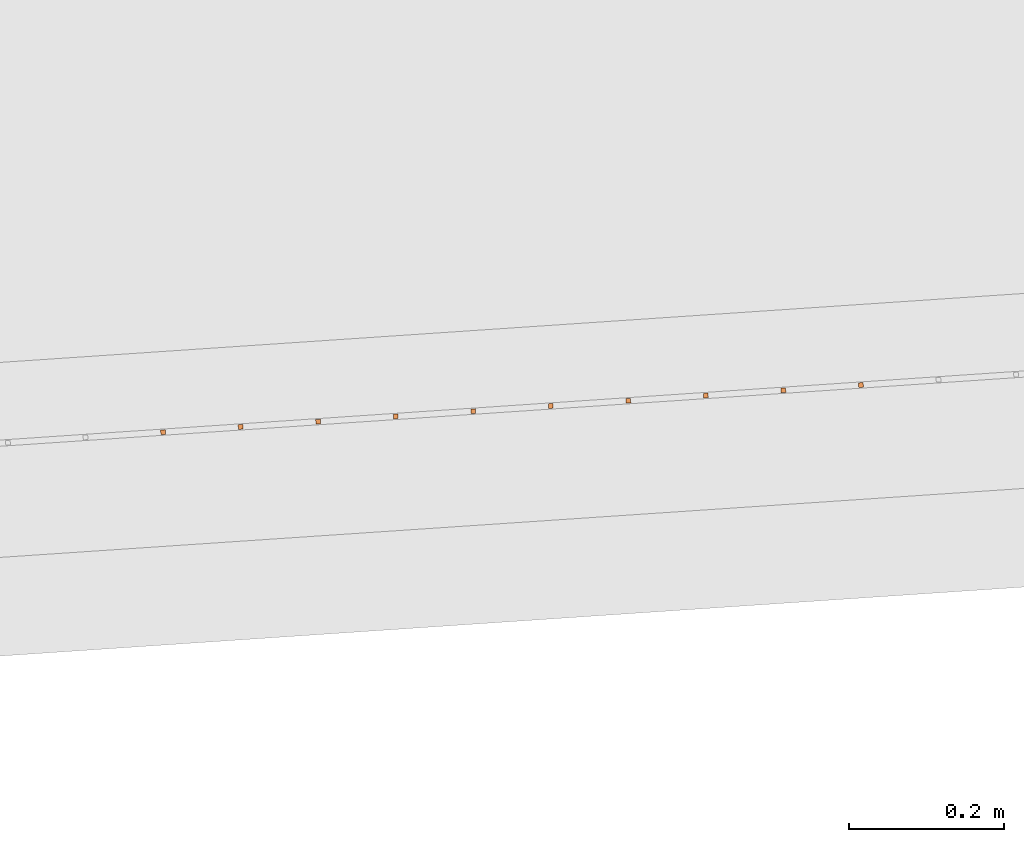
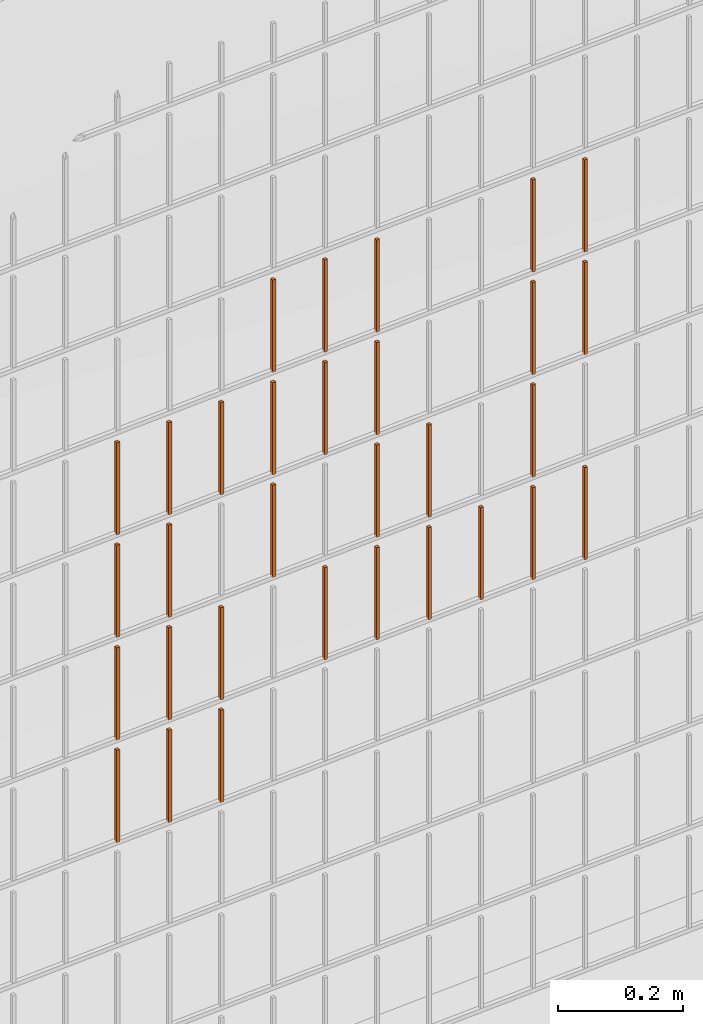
# One storey, part 370 of 1809: 31 proxies, 1 element without a shape of its own.
"""IFC2X3 building model written with IfcOpenShell, lengths in millimetres."""

import ifcopenshell
import ifcopenshell.guid

model = None  # the IFC model being written
_history = None  # IfcOwnerHistory: only IFC2X3 demands one
_inside = {}  # id of a spatial element -> (the spatial element, [elements in it])
_under = {}  # id of a project, library or spatial element -> (it, [spatial elements below it])
_declared = {}  # id of a project -> (the project, [libraries it declares])
_typed = {}  # id of a type object -> (the type object, [elements of that type])
_made_of = {}  # id of a material, layer set ... -> (it, [elements and type objects made of it])


def new_model(schema):
    """Start an empty IFC model of exactly this schema.

    Asked for "IFC4X3", IfcOpenShell would pick the latest addendum, in which some entities
    have other attributes; the version numbers below select the first issue.
    IFC2X3 requires an IfcOwnerHistory on every rooted entity: one is made here for all.
    """
    global model, _history
    if schema == "IFC4X3":
        model = ifcopenshell.file(schema_version=(4, 3, 0, 0))
    else:
        model = ifcopenshell.file(schema=schema)
    _inside.clear()
    _under.clear()
    _declared.clear()
    _typed.clear()
    _made_of.clear()
    _history = None
    if model.schema == "IFC2X3":
        org = make("IfcOrganization", Name="unknown")
        user = make(
            "IfcPersonAndOrganization",
            ThePerson=make("IfcPerson", FamilyName="unknown"),
            TheOrganization=org,
        )
        app = make(
            "IfcApplication",
            ApplicationDeveloper=org,
            Version="unknown",
            ApplicationFullName="unknown",
            ApplicationIdentifier="unknown",
        )
        _history = make(
            "IfcOwnerHistory",
            OwningUser=user,
            OwningApplication=app,
            ChangeAction="ADDED",
            CreationDate=0,
        )
    return model


def make(cls, **values):
    """One entity of the class cls with the attributes given. An attribute that is None is left unset."""
    return model.create_entity(
        cls, **{name: value for name, value in values.items() if value is not None}
    )


def entity(cls, *values):
    """Any entity or typed value of the class cls, its attributes in the order of the schema. None: left unset."""
    e = model.create_entity(cls)
    for i, value in enumerate(values):
        if value is not None:
            e[i] = value
    return e


def rooted(cls, **values):
    """An entity with a GlobalId (a new one), such as an element, a storey or a relation."""
    return make(cls, GlobalId=ifcopenshell.guid.new(), OwnerHistory=_history, **values)


def si_unit(unit_type, name, prefix=None):
    """IfcSIUnit, for example si_unit("LENGTHUNIT", "METRE", prefix="MILLI")."""
    return make("IfcSIUnit", UnitType=unit_type, Prefix=prefix, Name=name)


def converted_unit(unit_type, name, factor, base, dimensions=None, offset=None):
    """IfcConversionBasedUnit, such as the inch: factor (a typed value) times the base unit."""
    return make(
        "IfcConversionBasedUnit"
        if offset is None
        else "IfcConversionBasedUnitWithOffset",
        ConversionOffset=offset,
        Dimensions=None
        if dimensions is None
        else entity("IfcDimensionalExponents", *dimensions),
        UnitType=unit_type,
        Name=name,
        ConversionFactor=make(
            "IfcMeasureWithUnit", ValueComponent=factor, UnitComponent=base
        ),
    )


def derived_unit(unit_type, elements):
    """IfcDerivedUnit: a product of units, each with its exponent."""
    return make(
        "IfcDerivedUnit",
        Elements=[
            make("IfcDerivedUnitElement", Unit=unit, Exponent=power)
            for unit, power in elements
        ],
        UnitType=unit_type,
    )


def money_unit(currency):
    """IfcMonetaryUnit."""
    return make("IfcMonetaryUnit", Currency=currency)


def assignment(units):
    """IfcUnitAssignment: the units of a project."""
    return None if units is None else make("IfcUnitAssignment", Units=units)


def point(xyz):
    """IfcCartesianPoint."""
    return None if xyz is None else make("IfcCartesianPoint", Coordinates=xyz)


def direction(xyz):
    """IfcDirection."""
    return None if xyz is None else make("IfcDirection", DirectionRatios=xyz)


def frame(location, z_axis=None, x_axis=None):
    """IfcAxis2Placement3D, a coordinate frame: its origin and axes. An axis left out is left unset."""
    return make(
        "IfcAxis2Placement3D",
        Location=point(location),
        Axis=direction(z_axis),
        RefDirection=direction(x_axis),
    )


def origin_with_axes():
    """The frame at (0, 0, 0) with the z axis (0, 0, 1) and the x axis (1, 0, 0) written out."""
    return frame((0.0, 0.0, 0.0), z_axis=(0.0, 0.0, 1.0), x_axis=(1.0, 0.0, 0.0))


def place(relative_to, where):
    """IfcLocalPlacement: puts the frame where relative to a parent placement (None: the world)."""
    return make(
        "IfcLocalPlacement", PlacementRelTo=relative_to, RelativePlacement=where
    )


def context(
    kind, dimensions, precision=None, world=None, true_north=None, identifier=None
):
    """IfcGeometricRepresentationContext, for example the 3D "Model" context."""
    return make(
        "IfcGeometricRepresentationContext",
        ContextIdentifier=identifier,
        ContextType=kind,
        CoordinateSpaceDimension=dimensions,
        Precision=precision,
        WorldCoordinateSystem=world,
        TrueNorth=true_north,
    )


def subcontext(parent, identifier, kind, view, scale=None):
    """IfcGeometricRepresentationSubContext, for example "Body" below "Model"."""
    return make(
        "IfcGeometricRepresentationSubContext",
        ContextIdentifier=identifier,
        ContextType=kind,
        ParentContext=parent,
        TargetScale=scale,
        TargetView=view,
    )


def project(units=None, contexts=None):
    """IfcProject with its units and contexts."""
    return rooted(
        "IfcProject",
        Name="project",
        RepresentationContexts=contexts,
        UnitsInContext=assignment(units),
    )


def spatial(cls, under=None, at=None, **own):
    """A site, building, storey or space (cls), placed at a placement, below another one or the project."""
    s = rooted(cls, ObjectPlacement=at, **own)
    if under is not None:
        _under.setdefault(under.id(), (under, []))[1].append(s)
    return s


def faces_of(points, faces, orient=None, outer=None):
    """IfcFace entities. A face is a list of loops; a loop is a list of indices into points, from 0.

    orient and outer hold one flag for each loop. By default every Orientation is true, the
    first loop of a face is its IfcFaceOuterBound and the others are IfcFaceBound.
    """
    made = []
    for i, loops in enumerate(faces):
        bounds = []
        for j, loop in enumerate(loops):
            is_outer = j == 0 if outer is None else outer[i][j]
            bounds.append(
                make(
                    "IfcFaceOuterBound" if is_outer else "IfcFaceBound",
                    Bound=make("IfcPolyLoop", Polygon=[points[k] for k in loop]),
                    Orientation=True if orient is None else orient[i][j],
                )
            )
        made.append(make("IfcFace", Bounds=bounds))
    return made


def faceted_brep(points, faces, orient=None, outer=None, voids=None):
    """IfcFacetedBrep: a solid bounded by flat faces; with voids (closed shells), ...WithVoids."""
    shared = [point(p) for p in points]
    hull = make("IfcClosedShell", CfsFaces=faces_of(shared, faces, orient, outer))
    if voids is None:
        return make("IfcFacetedBrep", Outer=hull)
    return make(
        "IfcFacetedBrepWithVoids",
        Outer=hull,
        Voids=[
            make(cls, CfsFaces=faces_of(shared, fs, o, b)) for cls, fs, o, b in voids
        ],
    )


def shape(context_of_items, identifier, shape_type, items):
    """IfcShapeRepresentation: the items that make up one representation, for example the "Body"."""
    return make(
        "IfcShapeRepresentation",
        ContextOfItems=context_of_items,
        RepresentationIdentifier=identifier,
        RepresentationType=shape_type,
        Items=items,
    )


def source(mapping_origin, context_of_items, identifier, shape_type, items):
    """IfcRepresentationMap: a shape defined once, which mapped items show again and again."""
    return make(
        "IfcRepresentationMap",
        MappingOrigin=mapping_origin,
        MappedRepresentation=shape(context_of_items, identifier, shape_type, items),
    )


def transform(
    local_origin,
    x_axis=None,
    y_axis=None,
    z_axis=None,
    scale=None,
    scale2=None,
    scale3=None,
    uniform=True,
):
    """IfcCartesianTransformationOperator3D, or its non-uniform kind. x_axis, y_axis, z_axis: its Axis1, 2, 3."""
    if uniform:
        return make(
            "IfcCartesianTransformationOperator3D",
            Axis1=direction(x_axis),
            Axis2=direction(y_axis),
            LocalOrigin=point(local_origin),
            Scale=scale,
            Axis3=direction(z_axis),
        )
    return make(
        "IfcCartesianTransformationOperator3DnonUniform",
        Axis1=direction(x_axis),
        Axis2=direction(y_axis),
        LocalOrigin=point(local_origin),
        Scale=scale,
        Axis3=direction(z_axis),
        Scale2=scale2,
        Scale3=scale3,
    )


def mapped(mapping_source, mapping_target):
    """IfcMappedItem: shows the shape of a source again, moved by a transform."""
    return make(
        "IfcMappedItem", MappingSource=mapping_source, MappingTarget=mapping_target
    )


def material(Name=None, Category=None):
    """IfcMaterial."""
    return make("IfcMaterial", Name=Name, Category=Category)


def made_of(thing, what):
    """Note that an element or type object is made of a material, layer set ...; save() writes the relation."""
    if what is not None:
        _made_of.setdefault(what.id(), (what, []))[1].append(thing)
    return thing


def type_object(cls, material=None, **own):
    """A type object (cls), such as IfcWallType, which elements share."""
    return made_of(rooted(cls, **own), material)


def element(
    cls,
    number,
    at=None,
    inside=None,
    cuts=None,
    type_object=None,
    material=None,
    context=None,
    identifier="Body",
    shape_type=None,
    held_by="IfcProductDefinitionShape",
    body=None,
    shapes=None,
    **own,
):
    """One element of the class cls, such as IfcWall. Its Tag is "e" and its number.

    at: its placement. inside: the storey or other place that contains it. cuts: it is an
    opening in that element (IfcRelVoidsElement). A single representation is given by context,
    identifier, shape_type and body (its items); several are given by shapes. held_by: the class
    of the entity that holds the representations. save() writes the other relations.
    """
    e = rooted(cls, Tag="e%d" % number, ObjectPlacement=at, **own)
    if body is not None:
        shapes = [shape(context, identifier, shape_type, body)]
    if shapes is not None:
        e.Representation = make(held_by, Representations=shapes)
    if inside is not None:
        _inside.setdefault(inside.id(), (inside, []))[1].append(e)
    if cuts is not None:
        rooted(
            "IfcRelVoidsElement", RelatingBuildingElement=cuts, RelatedOpeningElement=e
        )
    if type_object is not None:
        _typed.setdefault(type_object.id(), (type_object, []))[1].append(e)
    return made_of(e, material)


def aggregate(whole, parts):
    """IfcRelAggregates: a whole, such as a stair, and the parts it consists of."""
    return rooted("IfcRelAggregates", RelatingObject=whole, RelatedObjects=parts)


def save(model, path):
    """Write the relations noted so far, then the file.

    IfcRelAggregates (storeys below a building ...), IfcRelContainedInSpatialStructure (elements
    in a storey), IfcRelDefinesByType, IfcRelAssociatesMaterial and IfcRelDeclares: one each for
    every whole, place, type object, material and project.
    """
    for whole, parts in _under.values():
        aggregate(whole, parts)
    for where, things in _inside.values():
        rooted(
            "IfcRelContainedInSpatialStructure",
            RelatedElements=things,
            RelatingStructure=where,
        )
    for kind, things in _typed.values():
        rooted("IfcRelDefinesByType", RelatedObjects=things, RelatingType=kind)
    for what, things in _made_of.values():
        rooted("IfcRelAssociatesMaterial", RelatedObjects=things, RelatingMaterial=what)
    for by, libraries in _declared.values():
        rooted("IfcRelDeclares", RelatingContext=by, RelatedDefinitions=libraries)
    model.write(path)


model = new_model("IFC2X3")

# Units and contexts
model_context = context("Model", 3, precision=0.01, world=origin_with_axes(), true_north=direction((0.0, 1.0)))
body_context = subcontext(model_context, "Body", "Model", "MODEL_VIEW")
ifc_project = project(units=[si_unit("LENGTHUNIT", "METRE", prefix="MILLI"), si_unit("AREAUNIT", "SQUARE_METRE"), si_unit("VOLUMEUNIT", "CUBIC_METRE"), converted_unit("PLANEANGLEUNIT", "DEGREE", entity("IfcPlaneAngleMeasure", 0.0174532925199), si_unit("PLANEANGLEUNIT", "RADIAN"), dimensions=[0, 0, 0, 0, 0, 0, 0]), si_unit("SOLIDANGLEUNIT", "STERADIAN"), money_unit("EUR"), converted_unit("TIMEUNIT", "Year", entity("IfcTimeMeasure", 31556926.0), si_unit("TIMEUNIT", "SECOND"), dimensions=[0, 0, 1, 0, 0, 0, 0]), si_unit("MASSUNIT", "GRAM", prefix="KILO"), si_unit("THERMODYNAMICTEMPERATUREUNIT", "DEGREE_CELSIUS"), si_unit("LUMINOUSINTENSITYUNIT", "LUMEN"), si_unit("ENERGYUNIT", "JOULE", prefix="MEGA"), derived_unit("THERMALCONDUCTANCEUNIT", [(si_unit("POWERUNIT", "WATT"), 1), (si_unit("LENGTHUNIT", "METRE"), -1), (si_unit("THERMODYNAMICTEMPERATUREUNIT", "KELVIN"), -1)]), derived_unit("SPECIFICHEATCAPACITYUNIT", [(si_unit("ENERGYUNIT", "JOULE"), 1), (si_unit("MASSUNIT", "GRAM", prefix="KILO"), -1), (si_unit("THERMODYNAMICTEMPERATUREUNIT", "KELVIN"), -1)]), derived_unit("MASSDENSITYUNIT", [(si_unit("MASSUNIT", "GRAM", prefix="KILO"), 1), (si_unit("VOLUMEUNIT", "CUBIC_METRE"), -1)])], contexts=[model_context])

# Site, building, storey
site_placement = place(None, origin_with_axes())
site = spatial("IfcSite", under=ifc_project, at=site_placement, Name="Politse- ja Piirivalveameti ning Päästeameti ühishoone", CompositionType="ELEMENT")
building_placement = place(site_placement, origin_with_axes())
building = spatial("IfcBuilding", under=site, at=building_placement, Name="Politse- ja Piirivalveameti ning Päästeameti ühishoone", CompositionType="ELEMENT")
storey_placement = place(building_placement, origin_with_axes())
storey = spatial("IfcBuildingStorey", under=building, at=storey_placement, Name="Esimene korrus", CompositionType="ELEMENT", Elevation=0.0)

# Proxies
building_element_proxy_type_1 = type_object("IfcBuildingElementProxyType", Name="Railing Type", PredefinedType="NOTDEFINED")
proxy_1_placement = place(storey_placement, frame((89252.001212, -29183.4766571, 203.661247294), z_axis=(0.0, 0.0, 1.0), x_axis=(1.0, 0.0, 0.0)))
proxy_1 = element("IfcBuildingElementProxy", 1, at=proxy_1_placement, inside=storey, type_object=building_element_proxy_type_1, Name="PIIRDEAED")
ifc_material = material(Name="ET-03_Raud")
building_element_proxy_type_2 = type_object("IfcBuildingElementProxyType", Name="IfcBuildingElementProxy", PredefinedType="NOTDEFINED")
shared_shape_1 = source(origin_with_axes(), body_context, "Body", "Brep", [
    faceted_brep([(3.0, 3.0, -0.000752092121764), (-3.0, 3.0, -0.000752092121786), (-3.0, 3.0, 179.99926046), (3.0, 3.0, 179.99926046), (3.0, -3.0, 0.000752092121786), (-3.0, -3.0, 0.000752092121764), (-3.0, -3.0, 180.000764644), (3.0, -3.0, 180.000764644)], [[[0, 1, 2, 3]], [[0, 4, 5, 1]], [[1, 5, 6, 2]], [[3, 2, 6, 7]], [[4, 0, 3, 7]], [[5, 4, 7, 6]]]),
])
proxy_2_placement = place(proxy_1_placement, frame((-20879.1117771, -18708.0799672, 621.988119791), z_axis=(0.0, 0.0, 1.0), x_axis=(1.0, 0.0, 0.0)))
proxy_2 = element("IfcBuildingElementProxy", 2, at=proxy_2_placement, type_object=building_element_proxy_type_2, material=ifc_material, Name="BALUSTER - 001", context=body_context, shape_type="MappedRepresentation", body=[
    mapped(shared_shape_1, transform((0.0, 0.0, 0.0), x_axis=(-0.0673926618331, 0.997726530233, 0.0), y_axis=(-0.997726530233, -0.0673926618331, 0.0), z_axis=(0.0, 0.0, 1.0))),
])
shared_shape_2 = source(origin_with_axes(), body_context, "Body", "Brep", [
    faceted_brep([(3.0, 3.0, -0.000752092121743), (-3.0, 3.0, -0.000752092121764), (-3.0, 3.0, 179.99926046), (3.0, 3.0, 179.99926046), (3.0, -3.0, 0.000752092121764), (-3.0, -3.0, 0.000752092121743), (-3.0, -3.0, 180.000764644), (3.0, -3.0, 180.000764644)], [[[0, 1, 2, 3]], [[0, 4, 5, 1]], [[1, 5, 6, 2]], [[3, 2, 6, 7]], [[4, 0, 3, 7]], [[5, 4, 7, 6]]]),
])
proxy_3_placement = place(proxy_1_placement, frame((-20380.2485119, -18674.3836363, 822.113468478), z_axis=(0.0, 0.0, 1.0), x_axis=(1.0, 0.0, 0.0)))
proxy_3 = element("IfcBuildingElementProxy", 3, at=proxy_3_placement, type_object=building_element_proxy_type_2, material=ifc_material, Name="BALUSTER - 001", context=body_context, shape_type="MappedRepresentation", body=[
    mapped(shared_shape_2, transform((0.0, 0.0, 0.0), x_axis=(-0.0673926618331, 0.997726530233, 0.0), y_axis=(-0.997726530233, -0.0673926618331, 0.0), z_axis=(0.0, 0.0, 1.0))),
])
shared_shape_3 = source(origin_with_axes(), body_context, "Body", "Brep", [
    faceted_brep([(3.0, 3.0, -0.000752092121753), (-3.0, 3.0, -0.000752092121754), (-3.0, 3.0, 179.99926046), (3.0, 3.0, 179.99926046), (3.0, -3.0, 0.000752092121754), (-3.0, -3.0, 0.000752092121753), (-3.0, -3.0, 180.000764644), (3.0, -3.0, 180.000764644)], [[[0, 1, 2, 3]], [[0, 4, 5, 1]], [[1, 5, 6, 2]], [[3, 2, 6, 7]], [[4, 0, 3, 7]], [[5, 4, 7, 6]]]),
])
proxy_4_placement = place(proxy_1_placement, frame((-20180.7032059, -18660.9051039, 822.163607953), z_axis=(0.0, 0.0, 1.0), x_axis=(1.0, 0.0, 0.0)))
proxy_4 = element("IfcBuildingElementProxy", 4, at=proxy_4_placement, type_object=building_element_proxy_type_2, material=ifc_material, Name="BALUSTER - 001", context=body_context, shape_type="MappedRepresentation", body=[
    mapped(shared_shape_3, transform((0.0, 0.0, 0.0), x_axis=(-0.0673926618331, 0.997726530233, 0.0), y_axis=(-0.997726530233, -0.0673926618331, 0.0), z_axis=(0.0, 0.0, 1.0))),
])
shared_shape_4 = source(origin_with_axes(), body_context, "Body", "Brep", [
    faceted_brep([(3.0, 3.0, -0.000752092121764), (-3.0, 3.0, -0.000752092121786), (-3.0, 3.0, 179.99926046), (3.0, 3.0, 179.99926046), (3.0, -3.0, 0.000752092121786), (-3.0, -3.0, 0.000752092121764), (-3.0, -3.0, 180.000764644), (3.0, -3.0, 180.000764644)], [[[0, 1, 2, 3]], [[0, 4, 5, 1]], [[1, 5, 6, 2]], [[3, 2, 6, 7]], [[4, 0, 3, 7]], [[5, 4, 7, 6]]]),
])
proxy_5_placement = place(proxy_1_placement, frame((-20978.8844301, -18714.8192334, 621.963050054), z_axis=(0.0, 0.0, 1.0), x_axis=(1.0, 0.0, 0.0)))
proxy_5 = element("IfcBuildingElementProxy", 5, at=proxy_5_placement, type_object=building_element_proxy_type_2, material=ifc_material, Name="BALUSTER - 001", context=body_context, shape_type="MappedRepresentation", body=[
    mapped(shared_shape_4, transform((0.0, 0.0, 0.0), x_axis=(-0.0673926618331, 0.997726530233, 0.0), y_axis=(-0.997726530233, -0.0673926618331, 0.0), z_axis=(0.0, 0.0, 1.0))),
])
shared_shape_5 = source(origin_with_axes(), body_context, "Body", "Brep", [
    faceted_brep([(3.0, 3.0, -0.000752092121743), (-3.0, 3.0, -0.000752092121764), (-3.0, 3.0, 179.99926046), (3.0, 3.0, 179.99926046), (3.0, -3.0, 0.000752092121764), (-3.0, -3.0, 0.000752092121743), (-3.0, -3.0, 180.000764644), (3.0, -3.0, 180.000764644)], [[[0, 1, 2, 3]], [[0, 4, 5, 1]], [[1, 5, 6, 2]], [[3, 2, 6, 7]], [[4, 0, 3, 7]], [[5, 4, 7, 6]]]),
])
proxy_6_placement = place(proxy_1_placement, frame((-20480.021165, -18681.1229025, 822.088398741), z_axis=(0.0, 0.0, 1.0), x_axis=(1.0, 0.0, 0.0)))
proxy_6 = element("IfcBuildingElementProxy", 6, at=proxy_6_placement, type_object=building_element_proxy_type_2, material=ifc_material, Name="BALUSTER - 001", context=body_context, shape_type="MappedRepresentation", body=[
    mapped(shared_shape_5, transform((0.0, 0.0, 0.0), x_axis=(-0.0673926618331, 0.997726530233, 0.0), y_axis=(-0.997726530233, -0.0673926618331, 0.0), z_axis=(0.0, 0.0, 1.0))),
])
shared_shape_6 = source(origin_with_axes(), body_context, "Body", "Brep", [
    faceted_brep([(3.0, 3.0, -0.000752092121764), (-3.0, 3.0, -0.000752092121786), (-3.0, 3.0, 179.99926046), (3.0, 3.0, 179.99926046), (3.0, -3.0, 0.000752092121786), (-3.0, -3.0, 0.000752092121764), (-3.0, -3.0, 180.000764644), (3.0, -3.0, 180.000764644)], [[[0, 1, 2, 3]], [[0, 4, 5, 1]], [[1, 5, 6, 2]], [[3, 2, 6, 7]], [[4, 0, 3, 7]], [[5, 4, 7, 6]]]),
])
proxy_7_placement = place(proxy_1_placement, frame((-21078.6570831, -18721.5584996, 821.937980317), z_axis=(0.0, 0.0, 1.0), x_axis=(1.0, 0.0, 0.0)))
proxy_7 = element("IfcBuildingElementProxy", 7, at=proxy_7_placement, type_object=building_element_proxy_type_2, material=ifc_material, Name="BALUSTER - 001", context=body_context, shape_type="MappedRepresentation", body=[
    mapped(shared_shape_6, transform((0.0, 0.0, 0.0), x_axis=(-0.0673926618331, 0.997726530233, 0.0), y_axis=(-0.997726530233, -0.0673926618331, 0.0), z_axis=(0.0, 0.0, 1.0))),
])
proxy_8_placement = place(proxy_1_placement, frame((-21078.6570831, -18721.5584996, 1221.93798032), z_axis=(0.0, 0.0, 1.0), x_axis=(1.0, 0.0, 0.0)))
proxy_8 = element("IfcBuildingElementProxy", 8, at=proxy_8_placement, type_object=building_element_proxy_type_2, material=ifc_material, Name="BALUSTER - 001", context=body_context, shape_type="MappedRepresentation", body=[
    mapped(shared_shape_6, transform((0.0, 0.0, 0.0), x_axis=(-0.0673926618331, 0.997726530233, 0.0), y_axis=(-0.997726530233, -0.0673926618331, 0.0), z_axis=(0.0, 0.0, 1.0))),
])
shared_shape_7 = source(origin_with_axes(), body_context, "Body", "Brep", [
    faceted_brep([(3.0, 3.0, -0.000752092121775), (-3.0, 3.0, -0.000752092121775), (-3.0, 3.0, 179.99926046), (3.0, 3.0, 179.99926046), (3.0, -3.0, 0.000752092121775), (-3.0, -3.0, 0.000752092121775), (-3.0, -3.0, 180.000764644), (3.0, -3.0, 180.000764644)], [[[0, 1, 2, 3]], [[0, 4, 5, 1]], [[1, 5, 6, 2]], [[3, 2, 6, 7]], [[4, 0, 3, 7]], [[5, 4, 7, 6]]]),
])
proxy_9_placement = place(proxy_1_placement, frame((-20879.1117771, -18708.0799672, 1221.98811979), z_axis=(0.0, 0.0, 1.0), x_axis=(1.0, 0.0, 0.0)))
proxy_9 = element("IfcBuildingElementProxy", 9, at=proxy_9_placement, type_object=building_element_proxy_type_2, material=ifc_material, Name="BALUSTER - 001", context=body_context, shape_type="MappedRepresentation", body=[
    mapped(shared_shape_7, transform((0.0, 0.0, 0.0), x_axis=(-0.0673926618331, 0.997726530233, 0.0), y_axis=(-0.997726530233, -0.0673926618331, 0.0), z_axis=(0.0, 0.0, 1.0))),
])
shared_shape_8 = source(origin_with_axes(), body_context, "Body", "Brep", [
    faceted_brep([(3.0, 3.0, -0.000752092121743), (-3.0, 3.0, -0.000752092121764), (-3.0, 3.0, 179.99926046), (3.0, 3.0, 179.99926046), (3.0, -3.0, 0.000752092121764), (-3.0, -3.0, 0.000752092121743), (-3.0, -3.0, 180.000764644), (3.0, -3.0, 180.000764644)], [[[0, 1, 2, 3]], [[0, 4, 5, 1]], [[1, 5, 6, 2]], [[3, 2, 6, 7]], [[4, 0, 3, 7]], [[5, 4, 7, 6]]]),
])
proxy_10_placement = place(proxy_1_placement, frame((-20280.4758589, -18667.6443701, 822.138538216), z_axis=(0.0, 0.0, 1.0), x_axis=(1.0, 0.0, 0.0)))
proxy_10 = element("IfcBuildingElementProxy", 10, at=proxy_10_placement, type_object=building_element_proxy_type_2, material=ifc_material, Name="BALUSTER - 001", context=body_context, shape_type="MappedRepresentation", body=[
    mapped(shared_shape_8, transform((0.0, 0.0, 0.0), x_axis=(-0.0673926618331, 0.997726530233, 0.0), y_axis=(-0.997726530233, -0.0673926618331, 0.0), z_axis=(0.0, 0.0, 1.0))),
])
proxy_11_placement = place(proxy_1_placement, frame((-20180.7032059, -18660.9051039, 1222.16360795), z_axis=(0.0, 0.0, 1.0), x_axis=(1.0, 0.0, 0.0)))
proxy_11 = element("IfcBuildingElementProxy", 11, at=proxy_11_placement, type_object=building_element_proxy_type_2, material=ifc_material, Name="BALUSTER - 001", context=body_context, shape_type="MappedRepresentation", body=[
    mapped(shared_shape_8, transform((0.0, 0.0, 0.0), x_axis=(-0.0673926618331, 0.997726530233, 0.0), y_axis=(-0.997726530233, -0.0673926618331, 0.0), z_axis=(0.0, 0.0, 1.0))),
])
shared_shape_9 = source(origin_with_axes(), body_context, "Body", "Brep", [
    faceted_brep([(3.0, 3.0, -0.000752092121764), (-3.0, 3.0, -0.000752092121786), (-3.0, 3.0, 179.99926046), (3.0, 3.0, 179.99926046), (3.0, -3.0, 0.000752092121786), (-3.0, -3.0, 0.000752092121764), (-3.0, -3.0, 180.000764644), (3.0, -3.0, 180.000764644)], [[[0, 1, 2, 3]], [[0, 4, 5, 1]], [[1, 5, 6, 2]], [[3, 2, 6, 7]], [[4, 0, 3, 7]], [[5, 4, 7, 6]]]),
])
proxy_12_placement = place(proxy_1_placement, frame((-20879.1117771, -18708.0799672, 821.988119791), z_axis=(0.0, 0.0, 1.0), x_axis=(1.0, 0.0, 0.0)))
proxy_12 = element("IfcBuildingElementProxy", 12, at=proxy_12_placement, type_object=building_element_proxy_type_2, material=ifc_material, Name="BALUSTER - 001", context=body_context, shape_type="MappedRepresentation", body=[
    mapped(shared_shape_9, transform((0.0, 0.0, 0.0), x_axis=(-0.0673926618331, 0.997726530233, 0.0), y_axis=(-0.997726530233, -0.0673926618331, 0.0), z_axis=(0.0, 0.0, 1.0))),
])
shared_shape_10 = source(origin_with_axes(), body_context, "Body", "Brep", [
    faceted_brep([(3.0, 3.0, -0.000752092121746), (-3.0, 3.0, -0.000752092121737), (-3.00000000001, 2.99999999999, 179.99926046), (2.99999999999, 2.99999999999, 179.99926046), (3.0, -3.0, 0.000752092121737), (-3.0, -3.0, 0.000752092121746), (-3.00000000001, -3.00000000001, 180.000764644), (2.99999999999, -3.00000000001, 180.000764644)], [[[0, 1, 2, 3]], [[0, 4, 5, 1]], [[1, 5, 6, 2]], [[3, 2, 6, 7]], [[4, 0, 3, 7]], [[5, 4, 7, 6]]]),
])
proxy_13_placement = place(proxy_1_placement, frame((-20779.339124, -18701.340701, 1022.01318953), z_axis=(0.0, 0.0, 1.0), x_axis=(1.0, 0.0, 0.0)))
proxy_13 = element("IfcBuildingElementProxy", 13, at=proxy_13_placement, type_object=building_element_proxy_type_2, material=ifc_material, Name="BALUSTER - 001", context=body_context, shape_type="MappedRepresentation", body=[
    mapped(shared_shape_10, transform((0.0, 0.0, 0.0), x_axis=(-0.0673926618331, 0.997726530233, 0.0), y_axis=(-0.997726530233, -0.0673926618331, 0.0), z_axis=(0.0, 0.0, 1.0))),
])
shared_shape_11 = source(origin_with_axes(), body_context, "Body", "Brep", [
    faceted_brep([(3.0, 3.0, -0.000752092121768), (-3.0, 3.0, -0.000752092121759), (-3.00000000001, 2.99999999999, 179.99926046), (2.99999999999, 2.99999999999, 179.99926046), (3.0, -3.0, 0.000752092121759), (-3.0, -3.0, 0.000752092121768), (-3.00000000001, -3.00000000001, 180.000764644), (2.99999999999, -3.00000000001, 180.000764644)], [[[0, 1, 2, 3]], [[0, 4, 5, 1]], [[1, 5, 6, 2]], [[3, 2, 6, 7]], [[4, 0, 3, 7]], [[5, 4, 7, 6]]]),
])
proxy_14_placement = place(proxy_1_placement, frame((-21078.6570831, -18721.5584996, 1021.93798032), z_axis=(0.0, 0.0, 1.0), x_axis=(1.0, 0.0, 0.0)))
proxy_14 = element("IfcBuildingElementProxy", 14, at=proxy_14_placement, type_object=building_element_proxy_type_2, material=ifc_material, Name="BALUSTER - 001", context=body_context, shape_type="MappedRepresentation", body=[
    mapped(shared_shape_11, transform((0.0, 0.0, 0.0), x_axis=(-0.0673926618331, 0.997726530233, 0.0), y_axis=(-0.997726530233, -0.0673926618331, 0.0), z_axis=(0.0, 0.0, 1.0))),
])
shared_shape_12 = source(origin_with_axes(), body_context, "Body", "Brep", [
    faceted_brep([(3.0, 3.0, -0.000752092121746), (-3.0, 3.0, -0.000752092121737), (-3.00000000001, 2.99999999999, 179.99926046), (2.99999999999, 2.99999999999, 179.99926046), (3.0, -3.0, 0.000752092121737), (-3.0, -3.0, 0.000752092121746), (-3.00000000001, -3.00000000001, 180.000764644), (2.99999999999, -3.00000000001, 180.000764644)], [[[0, 1, 2, 3]], [[0, 4, 5, 1]], [[1, 5, 6, 2]], [[3, 2, 6, 7]], [[4, 0, 3, 7]], [[5, 4, 7, 6]]]),
])
proxy_15_placement = place(proxy_1_placement, frame((-20280.4758589, -18667.6443701, 1022.13853822), z_axis=(0.0, 0.0, 1.0), x_axis=(1.0, 0.0, 0.0)))
proxy_15 = element("IfcBuildingElementProxy", 15, at=proxy_15_placement, type_object=building_element_proxy_type_2, material=ifc_material, Name="BALUSTER - 001", context=body_context, shape_type="MappedRepresentation", body=[
    mapped(shared_shape_12, transform((0.0, 0.0, 0.0), x_axis=(-0.0673926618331, 0.997726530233, 0.0), y_axis=(-0.997726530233, -0.0673926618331, 0.0), z_axis=(0.0, 0.0, 1.0))),
])
shared_shape_13 = source(origin_with_axes(), body_context, "Body", "Brep", [
    faceted_brep([(3.0, 3.0, -0.000752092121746), (-3.0, 3.0, -0.000752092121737), (-3.00000000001, 2.99999999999, 179.99926046), (2.99999999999, 2.99999999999, 179.99926046), (3.0, -3.0, 0.000752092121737), (-3.0, -3.0, 0.000752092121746), (-3.00000000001, -3.00000000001, 180.000764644), (2.99999999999, -3.00000000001, 180.000764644)], [[[0, 1, 2, 3]], [[0, 4, 5, 1]], [[1, 5, 6, 2]], [[3, 2, 6, 7]], [[4, 0, 3, 7]], [[5, 4, 7, 6]]]),
])
proxy_16_placement = place(proxy_1_placement, frame((-20480.021165, -18681.1229025, 1022.08839874), z_axis=(0.0, 0.0, 1.0), x_axis=(1.0, 0.0, 0.0)))
proxy_16 = element("IfcBuildingElementProxy", 16, at=proxy_16_placement, type_object=building_element_proxy_type_2, material=ifc_material, Name="BALUSTER - 001", context=body_context, shape_type="MappedRepresentation", body=[
    mapped(shared_shape_13, transform((0.0, 0.0, 0.0), x_axis=(-0.0673926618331, 0.997726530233, 0.0), y_axis=(-0.997726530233, -0.0673926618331, 0.0), z_axis=(0.0, 0.0, 1.0))),
])
shared_shape_14 = source(origin_with_axes(), body_context, "Body", "Brep", [
    faceted_brep([(3.0, 3.0, -0.000752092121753), (-3.0, 3.0, -0.000752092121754), (-3.0, 3.0, 179.99926046), (3.0, 3.0, 179.99926046), (3.0, -3.0, 0.000752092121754), (-3.0, -3.0, 0.000752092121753), (-3.0, -3.0, 180.000764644), (3.0, -3.0, 180.000764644)], [[[0, 1, 2, 3]], [[0, 4, 5, 1]], [[1, 5, 6, 2]], [[3, 2, 6, 7]], [[4, 0, 3, 7]], [[5, 4, 7, 6]]]),
])
proxy_17_placement = place(proxy_1_placement, frame((-20779.339124, -18701.340701, 1222.01318953), z_axis=(0.0, 0.0, 1.0), x_axis=(1.0, 0.0, 0.0)))
proxy_17 = element("IfcBuildingElementProxy", 17, at=proxy_17_placement, type_object=building_element_proxy_type_2, material=ifc_material, Name="BALUSTER - 001", context=body_context, shape_type="MappedRepresentation", body=[
    mapped(shared_shape_14, transform((0.0, 0.0, 0.0), x_axis=(-0.0673926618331, 0.997726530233, 0.0), y_axis=(-0.997726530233, -0.0673926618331, 0.0), z_axis=(0.0, 0.0, 1.0))),
])
shared_shape_15 = source(origin_with_axes(), body_context, "Body", "Brep", [
    faceted_brep([(3.0, 3.0, -0.000752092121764), (-3.0, 3.0, -0.000752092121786), (-3.0, 3.0, 179.99926046), (3.0, 3.0, 179.99926046), (3.0, -3.0, 0.000752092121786), (-3.0, -3.0, 0.000752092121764), (-3.0, -3.0, 180.000764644), (3.0, -3.0, 180.000764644)], [[[0, 1, 2, 3]], [[0, 4, 5, 1]], [[1, 5, 6, 2]], [[3, 2, 6, 7]], [[4, 0, 3, 7]], [[5, 4, 7, 6]]]),
])
proxy_18_placement = place(proxy_1_placement, frame((-20978.8844301, -18714.8192334, 1221.96305005), z_axis=(0.0, 0.0, 1.0), x_axis=(1.0, 0.0, 0.0)))
proxy_18 = element("IfcBuildingElementProxy", 18, at=proxy_18_placement, type_object=building_element_proxy_type_2, material=ifc_material, Name="BALUSTER - 001", context=body_context, shape_type="MappedRepresentation", body=[
    mapped(shared_shape_15, transform((0.0, 0.0, 0.0), x_axis=(-0.0673926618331, 0.997726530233, 0.0), y_axis=(-0.997726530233, -0.0673926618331, 0.0), z_axis=(0.0, 0.0, 1.0))),
])
shared_shape_16 = source(origin_with_axes(), body_context, "Body", "Brep", [
    faceted_brep([(3.0, 3.0, -0.000752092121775), (-3.0, 3.0, -0.000752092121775), (-3.0, 3.0, 179.99926046), (3.0, 3.0, 179.99926046), (3.0, -3.0, 0.000752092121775), (-3.0, -3.0, 0.000752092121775), (-3.0, -3.0, 180.000764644), (3.0, -3.0, 180.000764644)], [[[0, 1, 2, 3]], [[0, 4, 5, 1]], [[1, 5, 6, 2]], [[3, 2, 6, 7]], [[4, 0, 3, 7]], [[5, 4, 7, 6]]]),
])
proxy_19_placement = place(proxy_1_placement, frame((-20679.566471, -18694.6014349, 822.038259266), z_axis=(0.0, 0.0, 1.0), x_axis=(1.0, 0.0, 0.0)))
proxy_19 = element("IfcBuildingElementProxy", 19, at=proxy_19_placement, type_object=building_element_proxy_type_2, material=ifc_material, Name="BALUSTER - 001", context=body_context, shape_type="MappedRepresentation", body=[
    mapped(shared_shape_16, transform((0.0, 0.0, 0.0), x_axis=(-0.0673926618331, 0.997726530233, 0.0), y_axis=(-0.997726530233, -0.0673926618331, 0.0), z_axis=(0.0, 0.0, 1.0))),
])
shared_shape_17 = source(origin_with_axes(), body_context, "Body", "Brep", [
    faceted_brep([(3.0, 3.0, -0.000752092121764), (-3.0, 3.0, -0.000752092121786), (-3.0, 3.0, 179.99926046), (3.0, 3.0, 179.99926046), (3.0, -3.0, 0.000752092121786), (-3.0, -3.0, 0.000752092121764), (-3.0, -3.0, 180.000764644), (3.0, -3.0, 180.000764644)], [[[0, 1, 2, 3]], [[0, 4, 5, 1]], [[1, 5, 6, 2]], [[3, 2, 6, 7]], [[4, 0, 3, 7]], [[5, 4, 7, 6]]]),
])
proxy_20_placement = place(proxy_1_placement, frame((-21078.6570831, -18721.5584996, 621.937980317), z_axis=(0.0, 0.0, 1.0), x_axis=(1.0, 0.0, 0.0)))
proxy_20 = element("IfcBuildingElementProxy", 20, at=proxy_20_placement, type_object=building_element_proxy_type_2, material=ifc_material, Name="BALUSTER - 001", context=body_context, shape_type="MappedRepresentation", body=[
    mapped(shared_shape_17, transform((0.0, 0.0, 0.0), x_axis=(-0.0673926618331, 0.997726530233, 0.0), y_axis=(-0.997726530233, -0.0673926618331, 0.0), z_axis=(0.0, 0.0, 1.0))),
])
shared_shape_18 = source(origin_with_axes(), body_context, "Body", "Brep", [
    faceted_brep([(3.0, 3.0, -0.000752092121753), (-3.0, 3.0, -0.000752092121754), (-3.0, 3.0, 179.99926046), (3.0, 3.0, 179.99926046), (3.0, -3.0, 0.000752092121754), (-3.0, -3.0, 0.000752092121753), (-3.0, -3.0, 180.000764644), (3.0, -3.0, 180.000764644)], [[[0, 1, 2, 3]], [[0, 4, 5, 1]], [[1, 5, 6, 2]], [[3, 2, 6, 7]], [[4, 0, 3, 7]], [[5, 4, 7, 6]]]),
])
proxy_21_placement = place(proxy_1_placement, frame((-20779.339124, -18701.340701, 1422.01318953), z_axis=(0.0, 0.0, 1.0), x_axis=(1.0, 0.0, 0.0)))
proxy_21 = element("IfcBuildingElementProxy", 21, at=proxy_21_placement, type_object=building_element_proxy_type_2, material=ifc_material, Name="BALUSTER - 001", context=body_context, shape_type="MappedRepresentation", body=[
    mapped(shared_shape_18, transform((0.0, 0.0, 0.0), x_axis=(-0.0673926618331, 0.997726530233, 0.0), y_axis=(-0.997726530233, -0.0673926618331, 0.0), z_axis=(0.0, 0.0, 1.0))),
])
shared_shape_19 = source(origin_with_axes(), body_context, "Body", "Brep", [
    faceted_brep([(3.0, 3.0, -0.000752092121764), (-3.0, 3.0, -0.000752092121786), (-3.0, 3.0, 179.99926046), (3.0, 3.0, 179.99926046), (3.0, -3.0, 0.000752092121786), (-3.0, -3.0, 0.000752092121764), (-3.0, -3.0, 180.000764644), (3.0, -3.0, 180.000764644)], [[[0, 1, 2, 3]], [[0, 4, 5, 1]], [[1, 5, 6, 2]], [[3, 2, 6, 7]], [[4, 0, 3, 7]], [[5, 4, 7, 6]]]),
])
proxy_22_placement = place(proxy_1_placement, frame((-20978.8844301, -18714.8192334, 821.963050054), z_axis=(0.0, 0.0, 1.0), x_axis=(1.0, 0.0, 0.0)))
proxy_22 = element("IfcBuildingElementProxy", 22, at=proxy_22_placement, type_object=building_element_proxy_type_2, material=ifc_material, Name="BALUSTER - 001", context=body_context, shape_type="MappedRepresentation", body=[
    mapped(shared_shape_19, transform((0.0, 0.0, 0.0), x_axis=(-0.0673926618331, 0.997726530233, 0.0), y_axis=(-0.997726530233, -0.0673926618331, 0.0), z_axis=(0.0, 0.0, 1.0))),
])
shared_shape_20 = source(origin_with_axes(), body_context, "Body", "Brep", [
    faceted_brep([(3.0, 3.0, -0.000752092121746), (-3.0, 3.0, -0.000752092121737), (-3.00000000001, 2.99999999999, 179.99926046), (2.99999999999, 2.99999999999, 179.99926046), (3.0, -3.0, 0.000752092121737), (-3.0, -3.0, 0.000752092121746), (-3.00000000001, -3.00000000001, 180.000764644), (2.99999999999, -3.00000000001, 180.000764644)], [[[0, 1, 2, 3]], [[0, 4, 5, 1]], [[1, 5, 6, 2]], [[3, 2, 6, 7]], [[4, 0, 3, 7]], [[5, 4, 7, 6]]]),
])
proxy_23_placement = place(proxy_1_placement, frame((-20978.8844301, -18714.8192334, 1021.96305005), z_axis=(0.0, 0.0, 1.0), x_axis=(1.0, 0.0, 0.0)))
proxy_23 = element("IfcBuildingElementProxy", 23, at=proxy_23_placement, type_object=building_element_proxy_type_2, material=ifc_material, Name="BALUSTER - 001", context=body_context, shape_type="MappedRepresentation", body=[
    mapped(shared_shape_20, transform((0.0, 0.0, 0.0), x_axis=(-0.0673926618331, 0.997726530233, 0.0), y_axis=(-0.997726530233, -0.0673926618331, 0.0), z_axis=(0.0, 0.0, 1.0))),
])
shared_shape_21 = source(origin_with_axes(), body_context, "Body", "Brep", [
    faceted_brep([(3.0, 3.0, -0.000752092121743), (-3.0, 3.0, -0.000752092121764), (-3.0, 3.0, 179.99926046), (3.0, 3.0, 179.99926046), (3.0, -3.0, 0.000752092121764), (-3.0, -3.0, 0.000752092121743), (-3.0, -3.0, 180.000764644), (3.0, -3.0, 180.000764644)], [[[0, 1, 2, 3]], [[0, 4, 5, 1]], [[1, 5, 6, 2]], [[3, 2, 6, 7]], [[4, 0, 3, 7]], [[5, 4, 7, 6]]]),
])
proxy_24_placement = place(proxy_1_placement, frame((-20180.7032059, -18660.9051039, 1422.16360795), z_axis=(0.0, 0.0, 1.0), x_axis=(1.0, 0.0, 0.0)))
proxy_24 = element("IfcBuildingElementProxy", 24, at=proxy_24_placement, type_object=building_element_proxy_type_2, material=ifc_material, Name="BALUSTER - 001", context=body_context, shape_type="MappedRepresentation", body=[
    mapped(shared_shape_21, transform((0.0, 0.0, 0.0), x_axis=(-0.0673926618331, 0.997726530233, 0.0), y_axis=(-0.997726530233, -0.0673926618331, 0.0), z_axis=(0.0, 0.0, 1.0))),
])
shared_shape_22 = source(origin_with_axes(), body_context, "Body", "Brep", [
    faceted_brep([(3.0, 3.0, -0.000752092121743), (-3.0, 3.0, -0.000752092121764), (-3.0, 3.0, 179.99926046), (3.0, 3.0, 179.99926046), (3.0, -3.0, 0.000752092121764), (-3.0, -3.0, 0.000752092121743), (-3.0, -3.0, 180.000764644), (3.0, -3.0, 180.000764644)], [[[0, 1, 2, 3]], [[0, 4, 5, 1]], [[1, 5, 6, 2]], [[3, 2, 6, 7]], [[4, 0, 3, 7]], [[5, 4, 7, 6]]]),
])
proxy_25_placement = place(proxy_1_placement, frame((-20280.4758589, -18667.6443701, 1222.13853822), z_axis=(0.0, 0.0, 1.0), x_axis=(1.0, 0.0, 0.0)))
proxy_25 = element("IfcBuildingElementProxy", 25, at=proxy_25_placement, type_object=building_element_proxy_type_2, material=ifc_material, Name="BALUSTER - 001", context=body_context, shape_type="MappedRepresentation", body=[
    mapped(shared_shape_22, transform((0.0, 0.0, 0.0), x_axis=(-0.0673926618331, 0.997726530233, 0.0), y_axis=(-0.997726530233, -0.0673926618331, 0.0), z_axis=(0.0, 0.0, 1.0))),
])
shared_shape_23 = source(origin_with_axes(), body_context, "Body", "Brep", [
    faceted_brep([(3.0, 3.0, -0.000752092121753), (-3.0, 3.0, -0.000752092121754), (-3.0, 3.0, 179.99926046), (3.0, 3.0, 179.99926046), (3.0, -3.0, 0.000752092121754), (-3.0, -3.0, 0.000752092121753), (-3.0, -3.0, 180.000764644), (3.0, -3.0, 180.000764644)], [[[0, 1, 2, 3]], [[0, 4, 5, 1]], [[1, 5, 6, 2]], [[3, 2, 6, 7]], [[4, 0, 3, 7]], [[5, 4, 7, 6]]]),
])
proxy_26_placement = place(proxy_1_placement, frame((-20679.566471, -18694.6014349, 1222.03825927), z_axis=(0.0, 0.0, 1.0), x_axis=(1.0, 0.0, 0.0)))
proxy_26 = element("IfcBuildingElementProxy", 26, at=proxy_26_placement, type_object=building_element_proxy_type_2, material=ifc_material, Name="BALUSTER - 001", context=body_context, shape_type="MappedRepresentation", body=[
    mapped(shared_shape_23, transform((0.0, 0.0, 0.0), x_axis=(-0.0673926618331, 0.997726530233, 0.0), y_axis=(-0.997726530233, -0.0673926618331, 0.0), z_axis=(0.0, 0.0, 1.0))),
])
shared_shape_24 = source(origin_with_axes(), body_context, "Body", "Brep", [
    faceted_brep([(3.0, 3.0, -0.000752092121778), (-3.0, 3.0, -0.000752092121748), (-3.00000000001, 2.99999999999, 179.99926046), (2.99999999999, 2.99999999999, 179.99926046), (3.0, -3.0, 0.000752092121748), (-3.0, -3.0, 0.000752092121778), (-3.00000000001, -3.00000000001, 180.000764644), (2.99999999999, -3.00000000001, 180.000764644)], [[[0, 1, 2, 3]], [[0, 4, 5, 1]], [[1, 5, 6, 2]], [[3, 2, 6, 7]], [[4, 0, 3, 7]], [[5, 4, 7, 6]]]),
])
proxy_27_placement = place(proxy_1_placement, frame((-20579.793818, -18687.8621687, 1022.063329), z_axis=(0.0, 0.0, 1.0), x_axis=(1.0, 0.0, 0.0)))
proxy_27 = element("IfcBuildingElementProxy", 27, at=proxy_27_placement, type_object=building_element_proxy_type_2, material=ifc_material, Name="BALUSTER - 001", context=body_context, shape_type="MappedRepresentation", body=[
    mapped(shared_shape_24, transform((0.0, 0.0, 0.0), x_axis=(-0.0673926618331, 0.997726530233, 0.0), y_axis=(-0.997726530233, -0.0673926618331, 0.0), z_axis=(0.0, 0.0, 1.0))),
])
shared_shape_25 = source(origin_with_axes(), body_context, "Body", "Brep", [
    faceted_brep([(3.0, 3.0, -0.000752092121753), (-3.0, 3.0, -0.000752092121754), (-3.0, 3.0, 179.99926046), (3.0, 3.0, 179.99926046), (3.0, -3.0, 0.000752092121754), (-3.0, -3.0, 0.000752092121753), (-3.0, -3.0, 180.000764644), (3.0, -3.0, 180.000764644)], [[[0, 1, 2, 3]], [[0, 4, 5, 1]], [[1, 5, 6, 2]], [[3, 2, 6, 7]], [[4, 0, 3, 7]], [[5, 4, 7, 6]]]),
])
proxy_28_placement = place(proxy_1_placement, frame((-20679.566471, -18694.6014349, 1422.03825927), z_axis=(0.0, 0.0, 1.0), x_axis=(1.0, 0.0, 0.0)))
proxy_28 = element("IfcBuildingElementProxy", 28, at=proxy_28_placement, type_object=building_element_proxy_type_2, material=ifc_material, Name="BALUSTER - 001", context=body_context, shape_type="MappedRepresentation", body=[
    mapped(shared_shape_25, transform((0.0, 0.0, 0.0), x_axis=(-0.0673926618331, 0.997726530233, 0.0), y_axis=(-0.997726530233, -0.0673926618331, 0.0), z_axis=(0.0, 0.0, 1.0))),
])
shared_shape_26 = source(origin_with_axes(), body_context, "Body", "Brep", [
    faceted_brep([(3.0, 3.0, -0.000752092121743), (-3.0, 3.0, -0.000752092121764), (-3.0, 3.0, 179.99926046), (3.0, 3.0, 179.99926046), (3.0, -3.0, 0.000752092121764), (-3.0, -3.0, 0.000752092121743), (-3.0, -3.0, 180.000764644), (3.0, -3.0, 180.000764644)], [[[0, 1, 2, 3]], [[0, 4, 5, 1]], [[1, 5, 6, 2]], [[3, 2, 6, 7]], [[4, 0, 3, 7]], [[5, 4, 7, 6]]]),
])
proxy_29_placement = place(proxy_1_placement, frame((-20280.4758589, -18667.6443701, 1422.13853822), z_axis=(0.0, 0.0, 1.0), x_axis=(1.0, 0.0, 0.0)))
proxy_29 = element("IfcBuildingElementProxy", 29, at=proxy_29_placement, type_object=building_element_proxy_type_2, material=ifc_material, Name="BALUSTER - 001", context=body_context, shape_type="MappedRepresentation", body=[
    mapped(shared_shape_26, transform((0.0, 0.0, 0.0), x_axis=(-0.0673926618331, 0.997726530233, 0.0), y_axis=(-0.997726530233, -0.0673926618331, 0.0), z_axis=(0.0, 0.0, 1.0))),
])
shared_shape_27 = source(origin_with_axes(), body_context, "Body", "Brep", [
    faceted_brep([(3.0, 3.0, -0.000752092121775), (-3.0, 3.0, -0.000752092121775), (-3.0, 3.0, 179.99926046), (3.0, 3.0, 179.99926046), (3.0, -3.0, 0.000752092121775), (-3.0, -3.0, 0.000752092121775), (-3.0, -3.0, 180.000764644), (3.0, -3.0, 180.000764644)], [[[0, 1, 2, 3]], [[0, 4, 5, 1]], [[1, 5, 6, 2]], [[3, 2, 6, 7]], [[4, 0, 3, 7]], [[5, 4, 7, 6]]]),
])
proxy_30_placement = place(proxy_1_placement, frame((-20579.793818, -18687.8621687, 1222.063329), z_axis=(0.0, 0.0, 1.0), x_axis=(1.0, 0.0, 0.0)))
proxy_30 = element("IfcBuildingElementProxy", 30, at=proxy_30_placement, type_object=building_element_proxy_type_2, material=ifc_material, Name="BALUSTER - 001", context=body_context, shape_type="MappedRepresentation", body=[
    mapped(shared_shape_27, transform((0.0, 0.0, 0.0), x_axis=(-0.0673926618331, 0.997726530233, 0.0), y_axis=(-0.997726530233, -0.0673926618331, 0.0), z_axis=(0.0, 0.0, 1.0))),
])
shared_shape_28 = source(origin_with_axes(), body_context, "Body", "Brep", [
    faceted_brep([(3.0, 3.0, -0.000752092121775), (-3.0, 3.0, -0.000752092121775), (-3.0, 3.0, 179.99926046), (3.0, 3.0, 179.99926046), (3.0, -3.0, 0.000752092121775), (-3.0, -3.0, 0.000752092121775), (-3.0, -3.0, 180.000764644), (3.0, -3.0, 180.000764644)], [[[0, 1, 2, 3]], [[0, 4, 5, 1]], [[1, 5, 6, 2]], [[3, 2, 6, 7]], [[4, 0, 3, 7]], [[5, 4, 7, 6]]]),
])
proxy_31_placement = place(proxy_1_placement, frame((-20579.793818, -18687.8621687, 822.063329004), z_axis=(0.0, 0.0, 1.0), x_axis=(1.0, 0.0, 0.0)))
proxy_31 = element("IfcBuildingElementProxy", 31, at=proxy_31_placement, type_object=building_element_proxy_type_2, material=ifc_material, Name="BALUSTER - 001", context=body_context, shape_type="MappedRepresentation", body=[
    mapped(shared_shape_28, transform((0.0, 0.0, 0.0), x_axis=(-0.0673926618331, 0.997726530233, 0.0), y_axis=(-0.997726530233, -0.0673926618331, 0.0), z_axis=(0.0, 0.0, 1.0))),
])
shared_shape_29 = source(origin_with_axes(), body_context, "Body", "Brep", [
    faceted_brep([(3.0, 3.0, -0.000752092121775), (-3.0, 3.0, -0.000752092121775), (-3.0, 3.0, 179.99926046), (3.0, 3.0, 179.99926046), (3.0, -3.0, 0.000752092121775), (-3.0, -3.0, 0.000752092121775), (-3.0, -3.0, 180.000764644), (3.0, -3.0, 180.000764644)], [[[0, 1, 2, 3]], [[0, 4, 5, 1]], [[1, 5, 6, 2]], [[3, 2, 6, 7]], [[4, 0, 3, 7]], [[5, 4, 7, 6]]]),
])
proxy_32_placement = place(proxy_1_placement, frame((-20579.793818, -18687.8621687, 1422.063329), z_axis=(0.0, 0.0, 1.0), x_axis=(1.0, 0.0, 0.0)))
proxy_32 = element("IfcBuildingElementProxy", 32, at=proxy_32_placement, type_object=building_element_proxy_type_2, material=ifc_material, Name="BALUSTER - 001", context=body_context, shape_type="MappedRepresentation", body=[
    mapped(shared_shape_29, transform((0.0, 0.0, 0.0), x_axis=(-0.0673926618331, 0.997726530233, 0.0), y_axis=(-0.997726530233, -0.0673926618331, 0.0), z_axis=(0.0, 0.0, 1.0))),
])
aggregate(proxy_1, [proxy_2, proxy_5, proxy_20, proxy_4, proxy_10, proxy_3, proxy_6, proxy_31, proxy_19, proxy_12, proxy_22, proxy_7, proxy_15, proxy_16, proxy_27, proxy_13, proxy_23, proxy_14, proxy_11, proxy_25, proxy_30, proxy_26, proxy_17, proxy_9, proxy_18, proxy_8, proxy_24, proxy_29, proxy_32, proxy_28, proxy_21])

save(model, "model.ifc")
